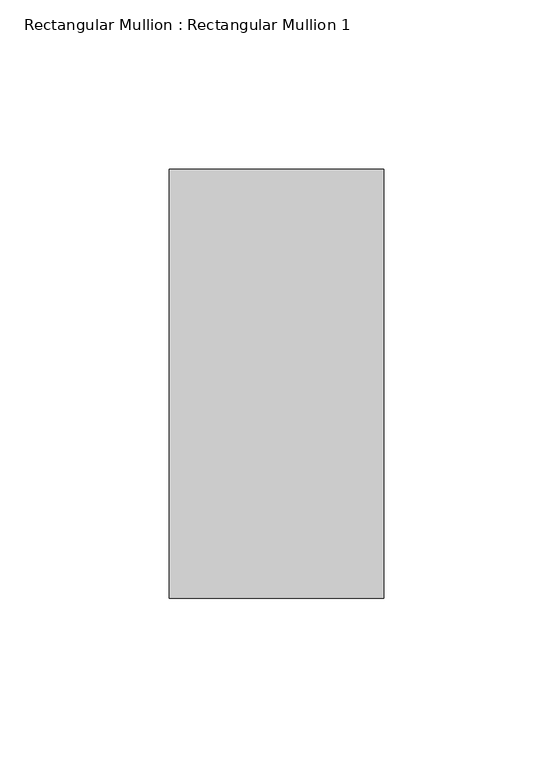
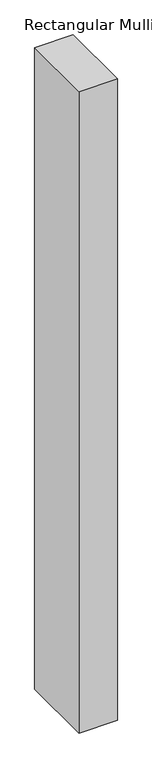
"""IFC4 building model written with IfcOpenShell, lengths in millimetres: member geometry, Rectangular Mullion : Rectangular Mullion 1."""

from ifc_helpers import new_model, si_unit, frame, origin, place, context, project, spatial, polyline, outline, extrude, source, transform, mapped, element, save


def rectangular_mullion_rectangular_mullion_1_57ef5777(model_context):
    return source(origin(), model_context, "Body", "SweptSolid", [
        extrude(outline(polyline([(0.0, 63.5), (0.0, -63.5), (-63.5, -63.5), (-63.5, 63.5), (0.0, 63.5)])), frame((0.0, 0.0, -1122.5892859), z_axis=(0.0, 0.0, 1.0), x_axis=(1.0, 0.0, 0.0)), (0.0, 0.0, 1.0), 1122.5892859),
    ])


if __name__ == "__main__":
    model = new_model("IFC4")
    model_context = context("Model", 3, world=origin())
    ifc_project = project(units=[si_unit("LENGTHUNIT", "METRE", prefix="MILLI")], contexts=[model_context])
    site = spatial("IfcSite", under=ifc_project)
    building = spatial("IfcBuilding", under=site)
    placement = place(None, origin())
    rectangular_mullion_rectangular_mullion_1_shape = rectangular_mullion_rectangular_mullion_1_57ef5777(model_context)
    element("IfcMember", 1, ObjectType="Rectangular Mullion : Rectangular Mullion 1", at=placement, inside=building, context=model_context, shape_type="MappedRepresentation", body=[
        mapped(rectangular_mullion_rectangular_mullion_1_shape, transform((0.0, 0.0, 0.0), x_axis=(1.0, 0.0, 0.0), y_axis=(0.0, 1.0, 0.0), z_axis=(0.0, 0.0, 1.0))),
    ])
    save(model, "model.ifc")
